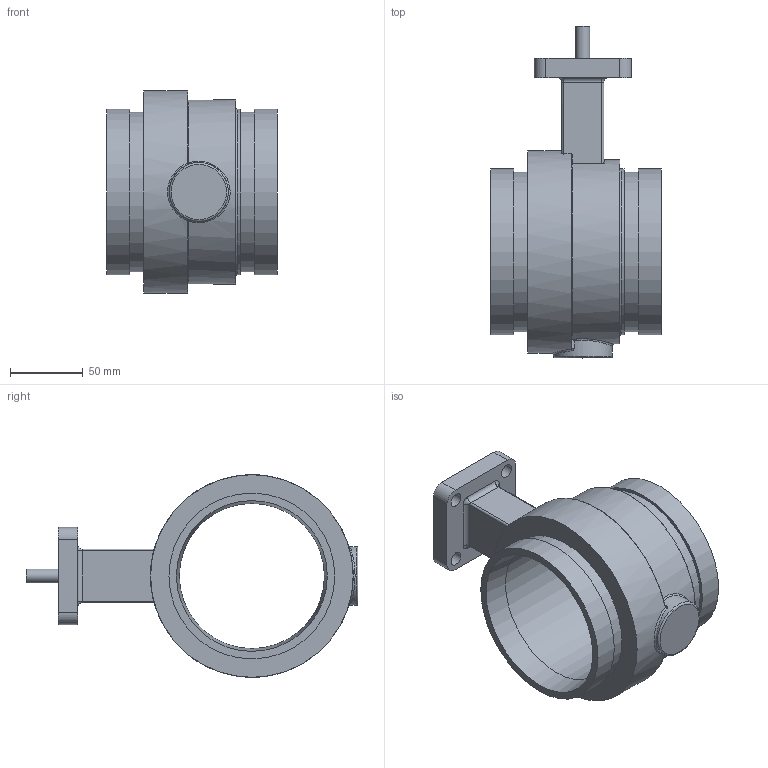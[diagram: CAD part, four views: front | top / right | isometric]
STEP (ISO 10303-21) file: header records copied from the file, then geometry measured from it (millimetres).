
FILE_DESCRIPTION(/* description */ ('Vic Series 461 Vic-300 MasterSeal SS Butterfly Valve','CAx-IF Rec.Pracs.---Representation and Presentation of Product Manufacturing Information (PMI)---4.0---2014-10-13'),/* implementation_level */ '2;1');
FILE_NAME(/* name */ 'C:\Users\kkamble\AppData\Roaming\Autodesk\ApplicationPlugins\Back Up\Victaulic_SS-OGS_Valve Butterfly Vic-300 Masterseal Bare_Series 461 (OGS)\Victaulic_SS-OGS_Valve Butterfly Vic-300 Masterseal Bare_Series 461 (OGS)_4 (100).stp',/* time_stamp */ '2020-09-02T14:48:22+05:00',/* author */ ('mchristi'),/* organization */ ('Victaulic'),/* preprocessor_version */ 'ST-DEVELOPER v17.2',/* originating_system */ 'Autodesk Inventor 2019',/* authorisation */ '');
FILE_SCHEMA (('AP242_MANAGED_MODEL_BASED_3D_ENGINEERING_MIM_LF { 1 0 10303 442 1 1 4 }'));
Length unit declared in the file: inch
Products named in the file (1): 461-04.0
Bounding box: 117.6 x 228.85 x 139.7 mm (x, y, z)
Volume: 611799.5 mm3; surface area: 119315.3 mm2
Topology: 1 solids, 1 shells, 88 faces, 217 edges, 137 vertices
Faces by surface type: cylinder 35, plane 22, bspline 14, torus 13, sphere 2, cone 2
Full cylindrical faces by diameter (mm): 9.652 x5, 40.64 x1, 54.102 x1, 100.076 x1, 110.084 x2, 114.3 x3, 127 x1, 139.7 x1
Entity records: 3375 total; most frequent: CARTESIAN_POINT 1071, DIRECTION 479, ORIENTED_EDGE 430, EDGE_CURVE 215, AXIS2_PLACEMENT_3D 207, VERTEX_POINT 137, CIRCLE 119, EDGE_LOOP 106
